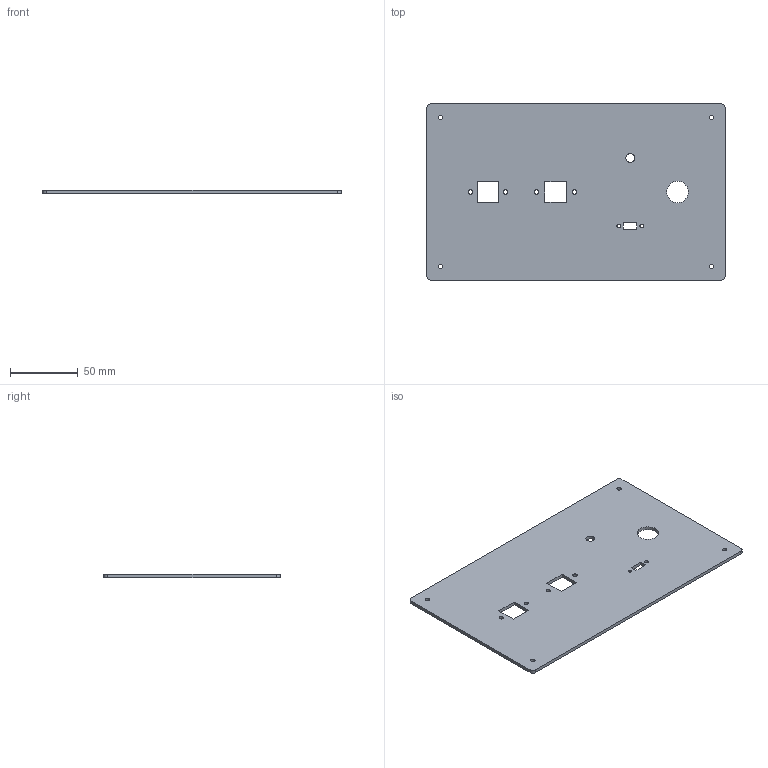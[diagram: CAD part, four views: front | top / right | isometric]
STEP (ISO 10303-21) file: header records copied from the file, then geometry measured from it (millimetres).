
FILE_DESCRIPTION(('Open CASCADE Model'),'2;1');
FILE_NAME('Open CASCADE Shape Model','2026-10-12T17:04:12',('Author'),( 'Open CASCADE'),'Open CASCADE STEP processor 7.7','Open CASCADE 7.7' ,'Unknown');
FILE_SCHEMA(('AUTOMOTIVE_DESIGN { 1 0 10303 214 1 1 1 1 }'));
Length unit declared in the file: millimetre
Products named in the file (1): COMPOUND
Bounding box: 220 x 130 x 2.5 mm (x, y, z)
Volume: 69382.7 mm3; surface area: 58046.9 mm2
Topology: 1 solids, 1 shells, 34 faces, 96 edges, 64 vertices
Faces by surface type: plane 18, cylinder 16
Full cylindrical faces by diameter (mm): 2.6 x2, 3.2 x8, 6.5 x1, 16 x1
Entity records: 2394 total; most frequent: CARTESIAN_POINT 459, DIRECTION 338, ORIENTED_EDGE 192, PCURVE 192, DEFINITIONAL_REPRESENTATION 192, LINE 176, VECTOR 176, EDGE_CURVE 96
